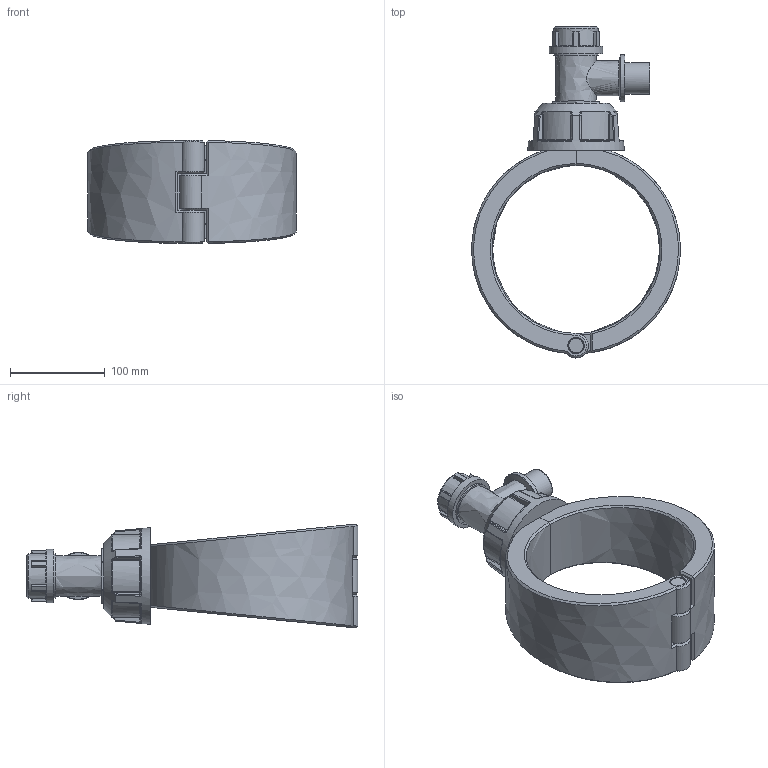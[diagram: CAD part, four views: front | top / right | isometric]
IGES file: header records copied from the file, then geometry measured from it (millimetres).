
Global section: file name: 1631R0177010; native system: Autodesk Inventor 2019; preprocessor: unknown; author: comp2; date: 20220203.120657; units: millimetre
Bounding box: 219.96 x 349.99 x 109.6 mm (x, y, z)
Volume: 1632706.7 mm3; surface area: 203926 mm2
Topology: 4 solids, 4 shells, 341 faces, 833 edges, 509 vertices
Faces by surface type: bspline 341
